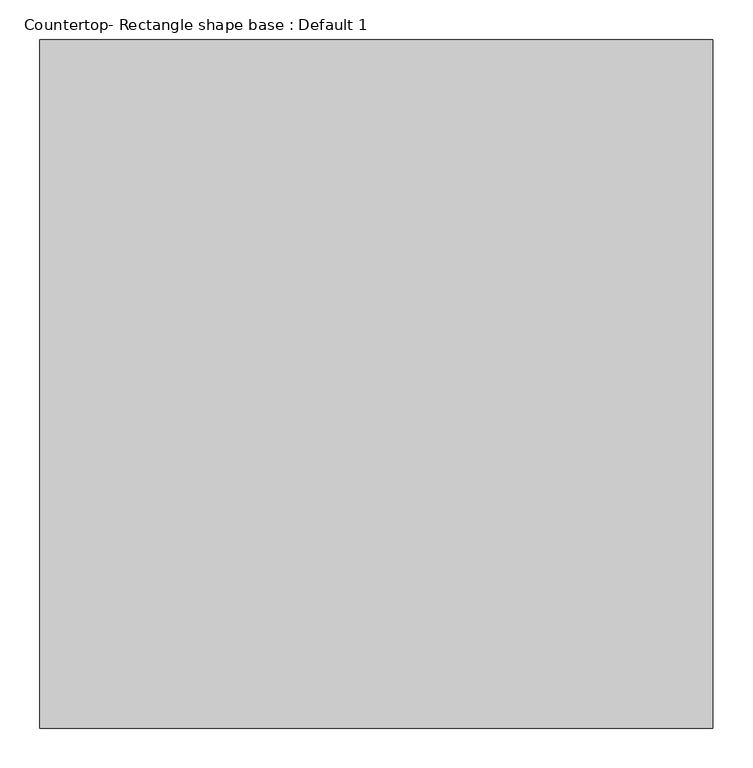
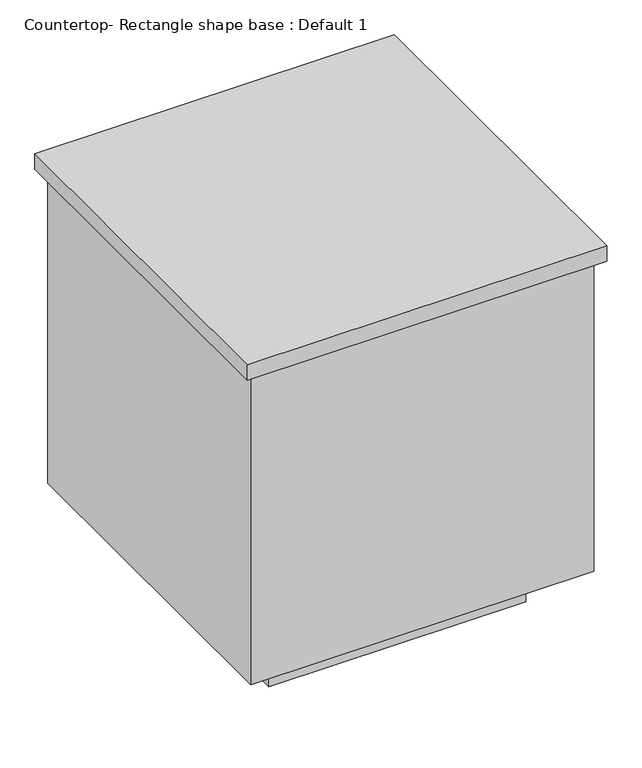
"""IFC4 building model written with IfcOpenShell, lengths in millimetres: proxy geometry, Countertop- Rectangle shape base : Default 1."""

from ifc_helpers import new_model, si_unit, frame, origin, origin_with_axes, place, context, project, spatial, polyline, outline, extrude, source, transform, mapped, element, save


def countertop_rectangle_shape_base_default_1_edbfd68f(model_context):
    return source(origin(), model_context, "Body", "SweptSolid", [
        extrude(outline(polyline([(339.725, -50.8), (339.725, 812.8), (1184.275, 812.8), (1184.275, -50.8), (339.725, -50.8)])), frame((0.0, 0.0, 876.3), z_axis=(0.0, 0.0, 1.0), x_axis=(1.0, 0.0, 0.0)), (0.0, 0.0, 1.0), 38.1),
        extrude(outline(polyline([(1165.225, 793.75), (1165.225, -31.75), (358.775, -31.75), (358.775, 793.75), (1165.225, 793.75)])), frame((0.0, 0.0, 101.6), z_axis=(0.0, 0.0, 1.0), x_axis=(1.0, 0.0, 0.0)), (0.0, 0.0, 1.0), 774.7),
        extrude(outline(polyline([(1063.625, 692.15), (1063.625, 69.85), (460.375, 69.85), (460.375, 692.15), (1063.625, 692.15)])), origin_with_axes(), (0.0, 0.0, 1.0), 101.6),
    ])


if __name__ == "__main__":
    model = new_model("IFC4")
    model_context = context("Model", 3, world=origin())
    ifc_project = project(units=[si_unit("LENGTHUNIT", "METRE", prefix="MILLI")], contexts=[model_context])
    site = spatial("IfcSite", under=ifc_project)
    building = spatial("IfcBuilding", under=site)
    placement = place(None, origin())
    countertop_rectangle_shape_base_default_1_shape = countertop_rectangle_shape_base_default_1_edbfd68f(model_context)
    element("IfcBuildingElementProxy", 1, Name="Countertop- Rectangle shape base : Default 1", ObjectType="Countertop- Rectangle shape base : Default 1", at=placement, inside=building, context=model_context, shape_type="MappedRepresentation", body=[
        mapped(countertop_rectangle_shape_base_default_1_shape, transform((0.0, 0.0, 0.0), x_axis=(1.0, 0.0, 0.0), y_axis=(0.0, 1.0, 0.0), z_axis=(0.0, 0.0, 1.0))),
    ])
    save(model, "model.ifc")
